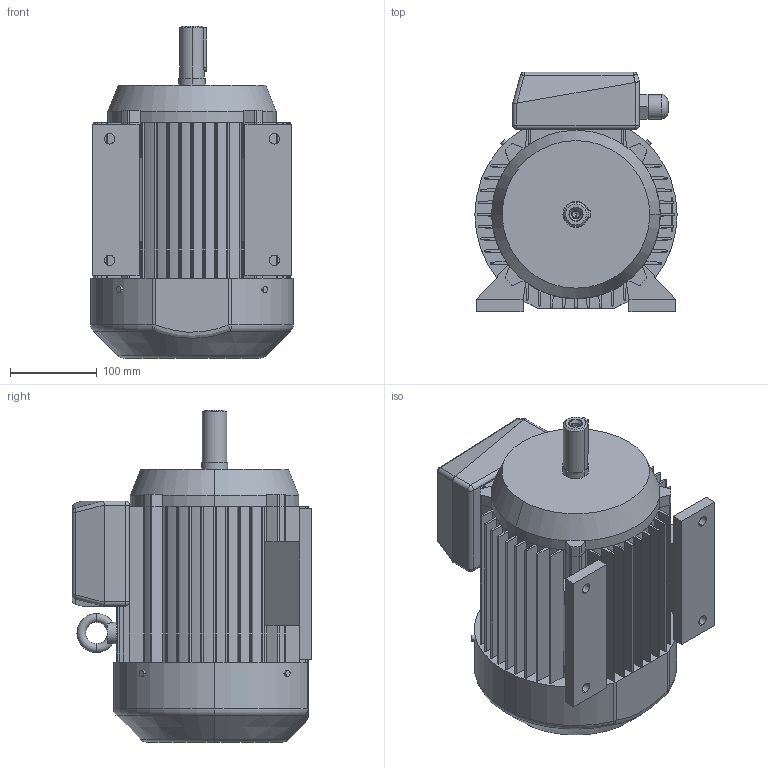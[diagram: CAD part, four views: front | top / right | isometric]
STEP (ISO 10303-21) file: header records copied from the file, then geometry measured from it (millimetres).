
FILE_DESCRIPTION (( 'STEP AP203' ), '1' );
FILE_NAME ('Sg 112M-B3.STEP', '2009-12-30T07:39:56', ( 'INDUKTA' ), ( 'CANTONI MOTOR' ), 'SwSTEP 2.0', 'SolidWorks 2003064', '' );
FILE_SCHEMA (( 'CONFIG_CONTROL_DESIGN' ));
Length unit declared in the file: millimetre
Products named in the file (1): Sg 112M-B3
Bounding box: 233 x 276 x 382.5 mm (x, y, z)
Volume: 12186993.3 mm3; surface area: 752263.3 mm2
Topology: 14 solids, 14 shells, 548 faces, 1470 edges, 943 vertices
Faces by surface type: plane 269, cylinder 199, bspline 43, cone 14, torus 13, sphere 10
Entity records: 20831 total; most frequent: CARTESIAN_POINT 7171, ORIENTED_EDGE 2916, DIRECTION 2748, EDGE_CURVE 1458, VERTEX_POINT 943, AXIS2_PLACEMENT_3D 919, LINE 910, VECTOR 910
